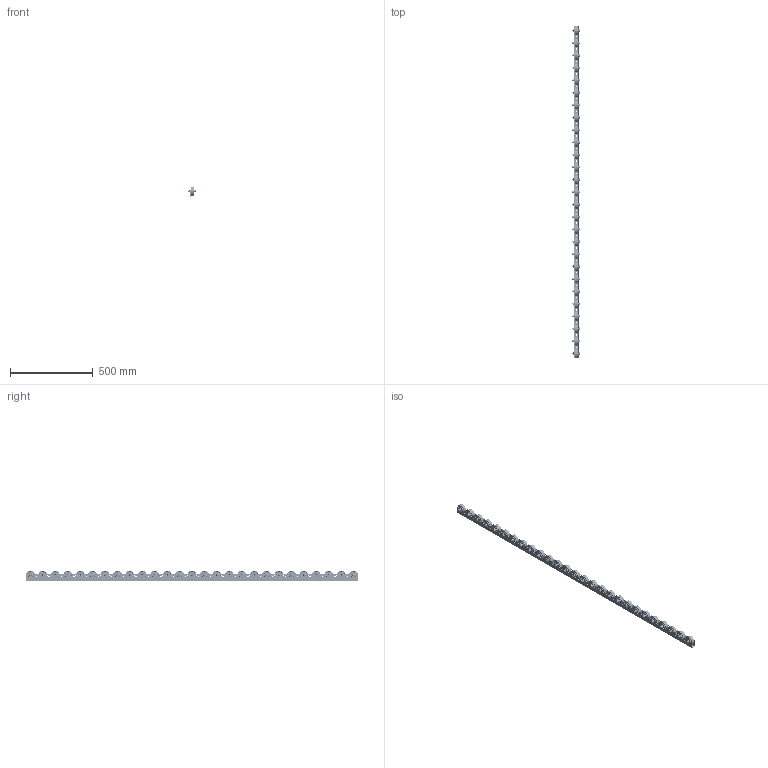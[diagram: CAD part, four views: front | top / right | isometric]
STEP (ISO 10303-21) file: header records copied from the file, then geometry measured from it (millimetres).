
FILE_DESCRIPTION( ( 'Unknown' ), '1' );
FILE_NAME( 'D:/Construktor/Listwy rolkowe 2015/Listwa T630G/Listwa T630G.stp', 'Unknown', ( 'Unknown' ), ( 'Unknown' ), 'PSStep 17.0.49', 'Unknown', ' ' );
FILE_SCHEMA( ( 'AUTOMOTIVE_DESIGN { 1 0 10303 214 1 1 1 1 }' ) );
Length unit declared in the file: millimetre
Products named in the file (9): Rolka T 630G; Rolka; Guma; Assem1; DIN_931_M8x35; DIN_931_M8x35-oa0; DIN_931_M8x35-oa1; Nut_DIN_980_M_M8_v10.50; Ceownik T620
Assembly tree (84 placements, depth 3):
  Assem1
    DIN_931_M8x35  x25
    DIN_931_M8x35-oa0
    DIN_931_M8x35-oa1
    Nut_DIN_980_M_M8_v10.50  x27
    Ceownik T620
    Rolka T 630G  x27
      Rolka
      Guma
Bounding box: 45.3 x 2003.96 x 63.98 mm (x, y, z)
Volume: 1442830.1 mm3; surface area: 916800.1 mm2
Topology: 109 solids, 109 shells, 2545 faces, 5657 edges, 3708 vertices
Faces by surface type: cylinder 942, plane 928, cone 405, torus 270
Full cylindrical faces by diameter (mm): 6.466 x27, 6.647 x27, 6.697 x27, 8 x81, 8.2 x398, 8.4 x27, 11.63 x27, 12 x54, 12.5 x27, 30.068 x54, 46.125 x108, 50 x54, 54 x27
Entity records: 22250 total; most frequent: DIRECTION 3120, CARTESIAN_POINT 2989, ORIENTED_EDGE 2060, EDGE_LOOP 1806, AXIS2_PLACEMENT_3D 1525, EDGE_CURVE 1030, FACE_OUTER_BOUND 977, VERTEX_POINT 970
